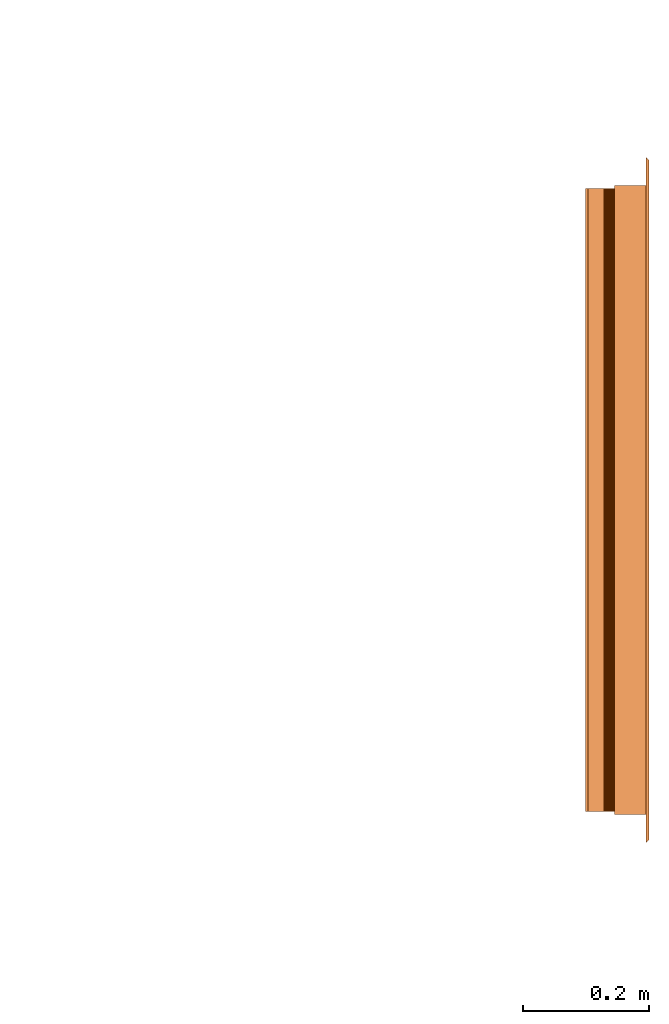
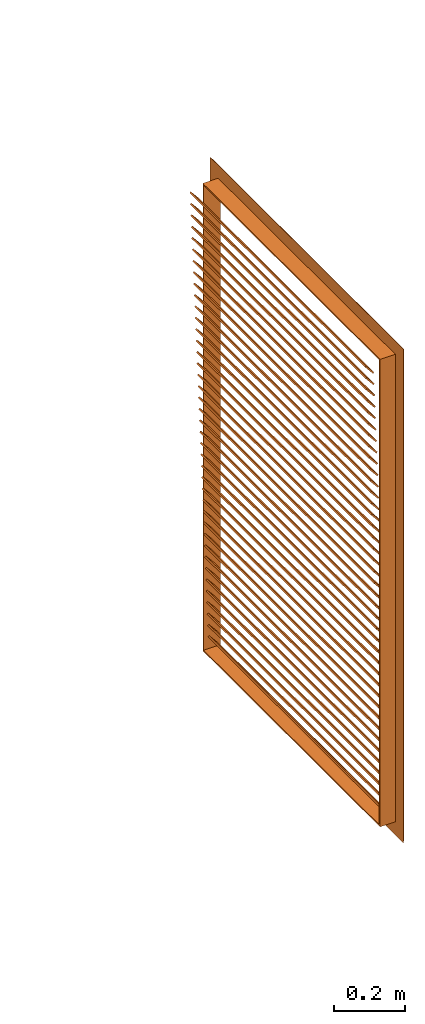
# One storey, part 2 of 5: 1 proxy.
"""IFC2X3 building model written with IfcOpenShell, lengths in centimetres."""

import ifcopenshell
import ifcopenshell.guid

model = None  # the IFC model being written
_history = None  # IfcOwnerHistory: only IFC2X3 demands one
_inside = {}  # id of a spatial element -> (the spatial element, [elements in it])
_under = {}  # id of a project, library or spatial element -> (it, [spatial elements below it])
_declared = {}  # id of a project -> (the project, [libraries it declares])
_typed = {}  # id of a type object -> (the type object, [elements of that type])
_made_of = {}  # id of a material, layer set ... -> (it, [elements and type objects made of it])


def new_model(schema):
    """Start an empty IFC model of exactly this schema.

    Asked for "IFC4X3", IfcOpenShell would pick the latest addendum, in which some entities
    have other attributes; the version numbers below select the first issue.
    IFC2X3 requires an IfcOwnerHistory on every rooted entity: one is made here for all.
    """
    global model, _history
    if schema == "IFC4X3":
        model = ifcopenshell.file(schema_version=(4, 3, 0, 0))
    else:
        model = ifcopenshell.file(schema=schema)
    _inside.clear()
    _under.clear()
    _declared.clear()
    _typed.clear()
    _made_of.clear()
    _history = None
    if model.schema == "IFC2X3":
        org = make("IfcOrganization", Name="unknown")
        user = make(
            "IfcPersonAndOrganization",
            ThePerson=make("IfcPerson", FamilyName="unknown"),
            TheOrganization=org,
        )
        app = make(
            "IfcApplication",
            ApplicationDeveloper=org,
            Version="unknown",
            ApplicationFullName="unknown",
            ApplicationIdentifier="unknown",
        )
        _history = make(
            "IfcOwnerHistory",
            OwningUser=user,
            OwningApplication=app,
            ChangeAction="ADDED",
            CreationDate=0,
        )
    return model


def make(cls, **values):
    """One entity of the class cls with the attributes given. An attribute that is None is left unset."""
    return model.create_entity(
        cls, **{name: value for name, value in values.items() if value is not None}
    )


def entity(cls, *values):
    """Any entity or typed value of the class cls, its attributes in the order of the schema. None: left unset."""
    e = model.create_entity(cls)
    for i, value in enumerate(values):
        if value is not None:
            e[i] = value
    return e


def rooted(cls, **values):
    """An entity with a GlobalId (a new one), such as an element, a storey or a relation."""
    return make(cls, GlobalId=ifcopenshell.guid.new(), OwnerHistory=_history, **values)


def si_unit(unit_type, name, prefix=None):
    """IfcSIUnit, for example si_unit("LENGTHUNIT", "METRE", prefix="MILLI")."""
    return make("IfcSIUnit", UnitType=unit_type, Prefix=prefix, Name=name)


def converted_unit(unit_type, name, factor, base, dimensions=None, offset=None):
    """IfcConversionBasedUnit, such as the inch: factor (a typed value) times the base unit."""
    return make(
        "IfcConversionBasedUnit"
        if offset is None
        else "IfcConversionBasedUnitWithOffset",
        ConversionOffset=offset,
        Dimensions=None
        if dimensions is None
        else entity("IfcDimensionalExponents", *dimensions),
        UnitType=unit_type,
        Name=name,
        ConversionFactor=make(
            "IfcMeasureWithUnit", ValueComponent=factor, UnitComponent=base
        ),
    )


def derived_unit(unit_type, elements):
    """IfcDerivedUnit: a product of units, each with its exponent."""
    return make(
        "IfcDerivedUnit",
        Elements=[
            make("IfcDerivedUnitElement", Unit=unit, Exponent=power)
            for unit, power in elements
        ],
        UnitType=unit_type,
    )


def assignment(units):
    """IfcUnitAssignment: the units of a project."""
    return None if units is None else make("IfcUnitAssignment", Units=units)


def point(xyz):
    """IfcCartesianPoint."""
    return None if xyz is None else make("IfcCartesianPoint", Coordinates=xyz)


def direction(xyz):
    """IfcDirection."""
    return None if xyz is None else make("IfcDirection", DirectionRatios=xyz)


def frame(location, z_axis=None, x_axis=None):
    """IfcAxis2Placement3D, a coordinate frame: its origin and axes. An axis left out is left unset."""
    return make(
        "IfcAxis2Placement3D",
        Location=point(location),
        Axis=direction(z_axis),
        RefDirection=direction(x_axis),
    )


def origin():
    """The frame at (0, 0, 0) with its axes left unset."""
    return frame((0.0, 0.0, 0.0))


def place(relative_to, where):
    """IfcLocalPlacement: puts the frame where relative to a parent placement (None: the world)."""
    return make(
        "IfcLocalPlacement", PlacementRelTo=relative_to, RelativePlacement=where
    )


def context(
    kind, dimensions, precision=None, world=None, true_north=None, identifier=None
):
    """IfcGeometricRepresentationContext, for example the 3D "Model" context."""
    return make(
        "IfcGeometricRepresentationContext",
        ContextIdentifier=identifier,
        ContextType=kind,
        CoordinateSpaceDimension=dimensions,
        Precision=precision,
        WorldCoordinateSystem=world,
        TrueNorth=true_north,
    )


def subcontext(parent, identifier, kind, view, scale=None):
    """IfcGeometricRepresentationSubContext, for example "Body" below "Model"."""
    return make(
        "IfcGeometricRepresentationSubContext",
        ContextIdentifier=identifier,
        ContextType=kind,
        ParentContext=parent,
        TargetScale=scale,
        TargetView=view,
    )


def project(units=None, contexts=None):
    """IfcProject with its units and contexts."""
    return rooted(
        "IfcProject",
        Name="project",
        RepresentationContexts=contexts,
        UnitsInContext=assignment(units),
    )


def spatial(cls, under=None, at=None, **own):
    """A site, building, storey or space (cls), placed at a placement, below another one or the project."""
    s = rooted(cls, ObjectPlacement=at, **own)
    if under is not None:
        _under.setdefault(under.id(), (under, []))[1].append(s)
    return s


def faces_of(points, faces, orient=None, outer=None):
    """IfcFace entities. A face is a list of loops; a loop is a list of indices into points, from 0.

    orient and outer hold one flag for each loop. By default every Orientation is true, the
    first loop of a face is its IfcFaceOuterBound and the others are IfcFaceBound.
    """
    made = []
    for i, loops in enumerate(faces):
        bounds = []
        for j, loop in enumerate(loops):
            is_outer = j == 0 if outer is None else outer[i][j]
            bounds.append(
                make(
                    "IfcFaceOuterBound" if is_outer else "IfcFaceBound",
                    Bound=make("IfcPolyLoop", Polygon=[points[k] for k in loop]),
                    Orientation=True if orient is None else orient[i][j],
                )
            )
        made.append(make("IfcFace", Bounds=bounds))
    return made


def faceted_brep(points, faces, orient=None, outer=None, voids=None):
    """IfcFacetedBrep: a solid bounded by flat faces; with voids (closed shells), ...WithVoids."""
    shared = [point(p) for p in points]
    hull = make("IfcClosedShell", CfsFaces=faces_of(shared, faces, orient, outer))
    if voids is None:
        return make("IfcFacetedBrep", Outer=hull)
    return make(
        "IfcFacetedBrepWithVoids",
        Outer=hull,
        Voids=[
            make(cls, CfsFaces=faces_of(shared, fs, o, b)) for cls, fs, o, b in voids
        ],
    )


def shape(context_of_items, identifier, shape_type, items):
    """IfcShapeRepresentation: the items that make up one representation, for example the "Body"."""
    return make(
        "IfcShapeRepresentation",
        ContextOfItems=context_of_items,
        RepresentationIdentifier=identifier,
        RepresentationType=shape_type,
        Items=items,
    )


def source(mapping_origin, context_of_items, identifier, shape_type, items):
    """IfcRepresentationMap: a shape defined once, which mapped items show again and again."""
    return make(
        "IfcRepresentationMap",
        MappingOrigin=mapping_origin,
        MappedRepresentation=shape(context_of_items, identifier, shape_type, items),
    )


def transform(
    local_origin,
    x_axis=None,
    y_axis=None,
    z_axis=None,
    scale=None,
    scale2=None,
    scale3=None,
    uniform=True,
):
    """IfcCartesianTransformationOperator3D, or its non-uniform kind. x_axis, y_axis, z_axis: its Axis1, 2, 3."""
    if uniform:
        return make(
            "IfcCartesianTransformationOperator3D",
            Axis1=direction(x_axis),
            Axis2=direction(y_axis),
            LocalOrigin=point(local_origin),
            Scale=scale,
            Axis3=direction(z_axis),
        )
    return make(
        "IfcCartesianTransformationOperator3DnonUniform",
        Axis1=direction(x_axis),
        Axis2=direction(y_axis),
        LocalOrigin=point(local_origin),
        Scale=scale,
        Axis3=direction(z_axis),
        Scale2=scale2,
        Scale3=scale3,
    )


def mapped(mapping_source, mapping_target):
    """IfcMappedItem: shows the shape of a source again, moved by a transform."""
    return make(
        "IfcMappedItem", MappingSource=mapping_source, MappingTarget=mapping_target
    )


def material(Name=None, Category=None):
    """IfcMaterial."""
    return make("IfcMaterial", Name=Name, Category=Category)


def made_of(thing, what):
    """Note that an element or type object is made of a material, layer set ...; save() writes the relation."""
    if what is not None:
        _made_of.setdefault(what.id(), (what, []))[1].append(thing)
    return thing


def type_object(cls, material=None, **own):
    """A type object (cls), such as IfcWallType, which elements share."""
    return made_of(rooted(cls, **own), material)


def type_shapes(of_type, sources):
    """Give a type object the sources (RepresentationMaps) that its elements show as mapped items."""
    of_type.RepresentationMaps = sources


def element(
    cls,
    number,
    at=None,
    inside=None,
    cuts=None,
    type_object=None,
    material=None,
    context=None,
    identifier="Body",
    shape_type=None,
    held_by="IfcProductDefinitionShape",
    body=None,
    shapes=None,
    **own,
):
    """One element of the class cls, such as IfcWall. Its Tag is "e" and its number.

    at: its placement. inside: the storey or other place that contains it. cuts: it is an
    opening in that element (IfcRelVoidsElement). A single representation is given by context,
    identifier, shape_type and body (its items); several are given by shapes. held_by: the class
    of the entity that holds the representations. save() writes the other relations.
    """
    e = rooted(cls, Tag="e%d" % number, ObjectPlacement=at, **own)
    if body is not None:
        shapes = [shape(context, identifier, shape_type, body)]
    if shapes is not None:
        e.Representation = make(held_by, Representations=shapes)
    if inside is not None:
        _inside.setdefault(inside.id(), (inside, []))[1].append(e)
    if cuts is not None:
        rooted(
            "IfcRelVoidsElement", RelatingBuildingElement=cuts, RelatedOpeningElement=e
        )
    if type_object is not None:
        _typed.setdefault(type_object.id(), (type_object, []))[1].append(e)
    return made_of(e, material)


def aggregate(whole, parts):
    """IfcRelAggregates: a whole, such as a stair, and the parts it consists of."""
    return rooted("IfcRelAggregates", RelatingObject=whole, RelatedObjects=parts)


def save(model, path):
    """Write the relations noted so far, then the file.

    IfcRelAggregates (storeys below a building ...), IfcRelContainedInSpatialStructure (elements
    in a storey), IfcRelDefinesByType, IfcRelAssociatesMaterial and IfcRelDeclares: one each for
    every whole, place, type object, material and project.
    """
    for whole, parts in _under.values():
        aggregate(whole, parts)
    for where, things in _inside.values():
        rooted(
            "IfcRelContainedInSpatialStructure",
            RelatedElements=things,
            RelatingStructure=where,
        )
    for kind, things in _typed.values():
        rooted("IfcRelDefinesByType", RelatedObjects=things, RelatingType=kind)
    for what, things in _made_of.values():
        rooted("IfcRelAssociatesMaterial", RelatedObjects=things, RelatingMaterial=what)
    for by, libraries in _declared.values():
        rooted("IfcRelDeclares", RelatingContext=by, RelatedDefinitions=libraries)
    model.write(path)


model = new_model("IFC2X3")

# Units and contexts
model_context = context("Model", 3, precision=0.001, world=origin(), true_north=direction((6.12303176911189e-17, 1.0)))
body_context = subcontext(model_context, "Body", "Model", "MODEL_VIEW")
ifc_project = project(units=[si_unit("LENGTHUNIT", "METRE", prefix="CENTI"), si_unit("AREAUNIT", "SQUARE_METRE"), si_unit("VOLUMEUNIT", "CUBIC_METRE"), converted_unit("PLANEANGLEUNIT", "DEGREE", entity("IfcRatioMeasure", 0.0174532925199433), si_unit("PLANEANGLEUNIT", "RADIAN"), dimensions=[0, 0, 0, 0, 0, 0, 0]), si_unit("MASSUNIT", "GRAM", prefix="KILO"), si_unit("TIMEUNIT", "SECOND"), si_unit("FREQUENCYUNIT", "HERTZ"), si_unit("THERMODYNAMICTEMPERATUREUNIT", "DEGREE_CELSIUS"), derived_unit("THERMALTRANSMITTANCEUNIT", [(si_unit("MASSUNIT", "GRAM", prefix="KILO"), 1), (si_unit("THERMODYNAMICTEMPERATUREUNIT", "KELVIN"), -1), (si_unit("TIMEUNIT", "SECOND"), -3)]), derived_unit("VOLUMETRICFLOWRATEUNIT", [(si_unit("LENGTHUNIT", "METRE"), 3), (si_unit("TIMEUNIT", "SECOND"), -1)]), si_unit("ELECTRICCURRENTUNIT", "AMPERE"), si_unit("ELECTRICVOLTAGEUNIT", "VOLT"), si_unit("POWERUNIT", "WATT"), si_unit("FORCEUNIT", "NEWTON", prefix="KILO"), si_unit("ILLUMINANCEUNIT", "LUX"), si_unit("LUMINOUSFLUXUNIT", "LUMEN"), si_unit("LUMINOUSINTENSITYUNIT", "CANDELA"), derived_unit("USERDEFINED", [(si_unit("MASSUNIT", "GRAM", prefix="KILO"), -1), (si_unit("LENGTHUNIT", "METRE"), -2), (si_unit("TIMEUNIT", "SECOND"), 3), (si_unit("LUMINOUSFLUXUNIT", "LUMEN"), 1)]), derived_unit("LINEARVELOCITYUNIT", [(si_unit("LENGTHUNIT", "METRE"), 1), (si_unit("TIMEUNIT", "SECOND"), -1)]), si_unit("PRESSUREUNIT", "PASCAL"), derived_unit("USERDEFINED", [(si_unit("LENGTHUNIT", "METRE"), -2), (si_unit("MASSUNIT", "GRAM", prefix="KILO"), 1), (si_unit("TIMEUNIT", "SECOND"), -2)])], contexts=[model_context])

# Site, building, storey
site_placement = place(None, frame((8.62739174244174, -249.285249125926, 0.0)))
site = spatial("IfcSite", under=ifc_project, at=site_placement, Name="Default", CompositionType="ELEMENT")
building_placement = place(site_placement, origin())
building = spatial("IfcBuilding", under=site, at=building_placement, CompositionType="ELEMENT")
storey_placement = place(building_placement, frame((0.0, 0.0, 410.0)))
storey = spatial("IfcBuildingStorey", under=building, at=storey_placement, Name="Acrotère E1", CompositionType="ELEMENT", Elevation=410.000000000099)

# Proxy
ifc_material = material(Name="Acier - Galvanisé")
building_element_proxy_type = type_object("IfcBuildingElementProxyType", Name="1000 x 800 mm", PredefinedType="NOTDEFINED", material=ifc_material)
shared_shape = source(origin(), body_context, "Body", "Brep", [
    faceted_brep([(104.011775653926, 5.84615384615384, 13.0503124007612), (104.011775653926, 8.4173042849, 9.98613462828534), (104.011775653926, 8.80032650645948, 10.3075284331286), (104.011775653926, 6.22917606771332, 13.3717062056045), (5.01177565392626, 5.84615384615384, 13.0503124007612), (5.01177565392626, 6.22917606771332, 13.3717062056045), (5.01177565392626, 8.80032650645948, 10.3075284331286), (5.01177565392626, 8.4173042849, 9.98613462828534)], [[[0, 1, 2, 3]], [[4, 5, 6, 7]], [[1, 0, 4, 7]], [[2, 1, 7, 6]], [[3, 2, 6, 5]], [[0, 3, 5, 4]]]),
    faceted_brep([(104.011775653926, 5.69230769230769, 17.0246713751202), (104.011775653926, 8.26345813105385, 13.9604936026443), (104.011775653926, 8.64648035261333, 14.2818874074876), (104.011775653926, 6.07532991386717, 17.3460651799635), (5.01177565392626, 5.69230769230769, 17.0246713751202), (5.01177565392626, 6.07532991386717, 17.3460651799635), (5.01177565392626, 8.64648035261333, 14.2818874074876), (5.01177565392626, 8.26345813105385, 13.9604936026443)], [[[0, 1, 2, 3]], [[4, 5, 6, 7]], [[1, 0, 4, 7]], [[2, 1, 7, 6]], [[3, 2, 6, 5]], [[0, 3, 5, 4]]]),
    faceted_brep([(104.011775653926, 5.53846153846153, 20.9990303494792), (104.011775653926, 8.10961197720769, 17.9348525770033), (104.011775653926, 8.49263419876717, 18.2562463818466), (104.011775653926, 5.92148376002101, 21.3204241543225), (5.01177565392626, 5.53846153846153, 20.9990303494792), (5.01177565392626, 5.92148376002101, 21.3204241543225), (5.01177565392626, 8.49263419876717, 18.2562463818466), (5.01177565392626, 8.10961197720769, 17.9348525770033)], [[[0, 1, 2, 3]], [[4, 5, 6, 7]], [[1, 0, 4, 7]], [[2, 1, 7, 6]], [[3, 2, 6, 5]], [[0, 3, 5, 4]]]),
    faceted_brep([(104.011775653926, 5.38461538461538, 24.9733893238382), (104.011775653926, 7.95576582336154, 21.9092115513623), (104.011775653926, 8.33878804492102, 22.2306053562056), (104.011775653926, 5.76763760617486, 25.2947831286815), (5.01177565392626, 5.38461538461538, 24.9733893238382), (5.01177565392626, 5.76763760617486, 25.2947831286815), (5.01177565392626, 8.33878804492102, 22.2306053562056), (5.01177565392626, 7.95576582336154, 21.9092115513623)], [[[0, 1, 2, 3]], [[4, 5, 6, 7]], [[1, 0, 4, 7]], [[2, 1, 7, 6]], [[3, 2, 6, 5]], [[0, 3, 5, 4]]]),
    faceted_brep([(104.011775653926, 5.23076923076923, 28.9477482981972), (104.011775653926, 7.80191966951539, 25.8835705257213), (104.011775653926, 8.18494189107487, 26.2049643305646), (104.011775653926, 5.61379145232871, 29.2691421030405), (5.01177565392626, 5.23076923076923, 28.9477482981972), (5.01177565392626, 5.61379145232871, 29.2691421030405), (5.01177565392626, 8.18494189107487, 26.2049643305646), (5.01177565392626, 7.80191966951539, 25.8835705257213)], [[[0, 1, 2, 3]], [[4, 5, 6, 7]], [[1, 0, 4, 7]], [[2, 1, 7, 6]], [[3, 2, 6, 5]], [[0, 3, 5, 4]]]),
    faceted_brep([(104.011775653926, 5.07692307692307, 32.9221072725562), (104.011775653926, 7.64807351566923, 29.8579295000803), (104.011775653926, 8.03109573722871, 30.1793233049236), (104.011775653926, 5.45994529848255, 33.2435010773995), (5.01177565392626, 5.07692307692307, 32.9221072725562), (5.01177565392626, 5.45994529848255, 33.2435010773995), (5.01177565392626, 8.03109573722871, 30.1793233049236), (5.01177565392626, 7.64807351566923, 29.8579295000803)], [[[0, 1, 2, 3]], [[4, 5, 6, 7]], [[1, 0, 4, 7]], [[2, 1, 7, 6]], [[3, 2, 6, 5]], [[0, 3, 5, 4]]]),
    faceted_brep([(104.011775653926, 4.92307692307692, 36.8964662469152), (104.011775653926, 7.49422736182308, 33.8322884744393), (104.011775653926, 7.87724958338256, 34.1536822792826), (104.011775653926, 5.3060991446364, 37.2178600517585), (5.01177565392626, 4.92307692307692, 36.8964662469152), (5.01177565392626, 5.3060991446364, 37.2178600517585), (5.01177565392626, 7.87724958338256, 34.1536822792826), (5.01177565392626, 7.49422736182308, 33.8322884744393)], [[[0, 1, 2, 3]], [[4, 5, 6, 7]], [[1, 0, 4, 7]], [[2, 1, 7, 6]], [[3, 2, 6, 5]], [[0, 3, 5, 4]]]),
    faceted_brep([(104.011775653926, 4.76923076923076, 40.8708252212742), (104.011775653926, 7.34038120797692, 37.8066474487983), (104.011775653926, 7.7234034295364, 38.1280412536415), (104.011775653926, 5.15225299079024, 41.1922190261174), (5.01177565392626, 4.76923076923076, 40.8708252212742), (5.01177565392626, 5.15225299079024, 41.1922190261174), (5.01177565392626, 7.7234034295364, 38.1280412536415), (5.01177565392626, 7.34038120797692, 37.8066474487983)], [[[0, 1, 2, 3]], [[4, 5, 6, 7]], [[1, 0, 4, 7]], [[2, 1, 7, 6]], [[3, 2, 6, 5]], [[0, 3, 5, 4]]]),
    faceted_brep([(104.011775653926, 4.61538461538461, 44.8451841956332), (104.011775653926, 7.18653505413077, 41.7810064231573), (104.011775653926, 7.56955727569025, 42.1024002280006), (104.011775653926, 4.99840683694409, 45.1665780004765), (5.01177565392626, 4.61538461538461, 44.8451841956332), (5.01177565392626, 4.99840683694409, 45.1665780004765), (5.01177565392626, 7.56955727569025, 42.1024002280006), (5.01177565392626, 7.18653505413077, 41.7810064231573)], [[[0, 1, 2, 3]], [[4, 5, 6, 7]], [[1, 0, 4, 7]], [[2, 1, 7, 6]], [[3, 2, 6, 5]], [[0, 3, 5, 4]]]),
    faceted_brep([(104.011775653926, 4.46153846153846, 48.8195431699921), (104.011775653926, 7.03268890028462, 45.7553653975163), (104.011775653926, 7.4157111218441, 46.0767592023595), (104.011775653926, 4.84456068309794, 49.1409369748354), (5.01177565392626, 4.46153846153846, 48.8195431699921), (5.01177565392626, 4.84456068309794, 49.1409369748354), (5.01177565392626, 7.4157111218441, 46.0767592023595), (5.01177565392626, 7.03268890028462, 45.7553653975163)], [[[0, 1, 2, 3]], [[4, 5, 6, 7]], [[1, 0, 4, 7]], [[2, 1, 7, 6]], [[3, 2, 6, 5]], [[0, 3, 5, 4]]]),
    faceted_brep([(104.011775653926, 4.3076923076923, 52.7939021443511), (104.011775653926, 6.87884274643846, 49.7297243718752), (104.011775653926, 7.26186496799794, 50.0511181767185), (104.011775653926, 4.69071452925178, 53.1152959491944), (5.01177565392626, 4.3076923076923, 52.7939021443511), (5.01177565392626, 4.69071452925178, 53.1152959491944), (5.01177565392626, 7.26186496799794, 50.0511181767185), (5.01177565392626, 6.87884274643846, 49.7297243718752)], [[[0, 1, 2, 3]], [[4, 5, 6, 7]], [[1, 0, 4, 7]], [[2, 1, 7, 6]], [[3, 2, 6, 5]], [[0, 3, 5, 4]]]),
    faceted_brep([(104.011775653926, 4.15384615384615, 56.7682611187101), (104.011775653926, 6.72499659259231, 53.7040833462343), (104.011775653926, 7.10801881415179, 54.0254771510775), (104.011775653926, 4.53686837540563, 57.0896549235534), (5.01177565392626, 4.15384615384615, 56.7682611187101), (5.01177565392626, 4.53686837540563, 57.0896549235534), (5.01177565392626, 7.10801881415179, 54.0254771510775), (5.01177565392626, 6.72499659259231, 53.7040833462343)], [[[0, 1, 2, 3]], [[4, 5, 6, 7]], [[1, 0, 4, 7]], [[2, 1, 7, 6]], [[3, 2, 6, 5]], [[0, 3, 5, 4]]]),
    faceted_brep([(104.011775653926, 4.0, 60.7426200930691), (104.011775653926, 6.57115043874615, 57.6784423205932), (104.011775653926, 6.95417266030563, 57.9998361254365), (104.011775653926, 4.38302222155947, 61.0640138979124), (5.01177565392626, 4.0, 60.7426200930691), (5.01177565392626, 4.38302222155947, 61.0640138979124), (5.01177565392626, 6.95417266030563, 57.9998361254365), (5.01177565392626, 6.57115043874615, 57.6784423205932)], [[[0, 1, 2, 3]], [[4, 5, 6, 7]], [[1, 0, 4, 7]], [[2, 1, 7, 6]], [[3, 2, 6, 5]], [[0, 3, 5, 4]]]),
    faceted_brep([(104.011775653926, 3.84615384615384, 64.716979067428), (104.011775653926, 6.4173042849, 61.6528012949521), (104.011775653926, 6.80032650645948, 61.9741950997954), (104.011775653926, 4.22917606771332, 65.0383728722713), (5.01177565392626, 3.84615384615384, 64.716979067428), (5.01177565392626, 4.22917606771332, 65.0383728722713), (5.01177565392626, 6.80032650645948, 61.9741950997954), (5.01177565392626, 6.4173042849, 61.6528012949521)], [[[0, 1, 2, 3]], [[4, 5, 6, 7]], [[1, 0, 4, 7]], [[2, 1, 7, 6]], [[3, 2, 6, 5]], [[0, 3, 5, 4]]]),
    faceted_brep([(104.011775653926, 3.69230769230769, 68.6913380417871), (104.011775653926, 6.26345813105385, 65.6271602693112), (104.011775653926, 6.64648035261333, 65.9485540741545), (104.011775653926, 4.07532991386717, 69.0127318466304), (5.01177565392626, 3.69230769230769, 68.6913380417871), (5.01177565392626, 4.07532991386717, 69.0127318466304), (5.01177565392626, 6.64648035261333, 65.9485540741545), (5.01177565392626, 6.26345813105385, 65.6271602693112)], [[[0, 1, 2, 3]], [[4, 5, 6, 7]], [[1, 0, 4, 7]], [[2, 1, 7, 6]], [[3, 2, 6, 5]], [[0, 3, 5, 4]]]),
    faceted_brep([(104.011775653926, 3.53846153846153, 72.665697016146), (104.011775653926, 6.10961197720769, 69.6015192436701), (104.011775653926, 6.49263419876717, 69.9229130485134), (104.011775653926, 3.92148376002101, 72.9870908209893), (5.01177565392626, 3.53846153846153, 72.665697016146), (5.01177565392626, 3.92148376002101, 72.9870908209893), (5.01177565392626, 6.49263419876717, 69.9229130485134), (5.01177565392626, 6.10961197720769, 69.6015192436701)], [[[0, 1, 2, 3]], [[4, 5, 6, 7]], [[1, 0, 4, 7]], [[2, 1, 7, 6]], [[3, 2, 6, 5]], [[0, 3, 5, 4]]]),
    faceted_brep([(104.011775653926, 3.38461538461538, 76.6400559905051), (104.011775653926, 5.95576582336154, 73.5758782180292), (104.011775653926, 6.33878804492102, 73.8972720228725), (104.011775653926, 3.76763760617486, 76.9614497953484), (5.01177565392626, 3.38461538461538, 76.6400559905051), (5.01177565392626, 3.76763760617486, 76.9614497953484), (5.01177565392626, 6.33878804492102, 73.8972720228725), (5.01177565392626, 5.95576582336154, 73.5758782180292)], [[[0, 1, 2, 3]], [[4, 5, 6, 7]], [[1, 0, 4, 7]], [[2, 1, 7, 6]], [[3, 2, 6, 5]], [[0, 3, 5, 4]]]),
    faceted_brep([(104.011775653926, 3.23076923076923, 80.614414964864), (104.011775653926, 5.80191966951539, 77.5502371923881), (104.011775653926, 6.18494189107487, 77.8716309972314), (104.011775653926, 3.61379145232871, 80.9358087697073), (5.01177565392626, 3.23076923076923, 80.614414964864), (5.01177565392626, 3.61379145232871, 80.9358087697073), (5.01177565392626, 6.18494189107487, 77.8716309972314), (5.01177565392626, 5.80191966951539, 77.5502371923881)], [[[0, 1, 2, 3]], [[4, 5, 6, 7]], [[1, 0, 4, 7]], [[2, 1, 7, 6]], [[3, 2, 6, 5]], [[0, 3, 5, 4]]]),
    faceted_brep([(104.011775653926, 3.07692307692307, 84.588773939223), (104.011775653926, 5.64807351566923, 81.5245961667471), (104.011775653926, 6.03109573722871, 81.8459899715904), (104.011775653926, 3.45994529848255, 84.9101677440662), (5.01177565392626, 3.07692307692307, 84.588773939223), (5.01177565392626, 3.45994529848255, 84.9101677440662), (5.01177565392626, 6.03109573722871, 81.8459899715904), (5.01177565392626, 5.64807351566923, 81.5245961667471)], [[[0, 1, 2, 3]], [[4, 5, 6, 7]], [[1, 0, 4, 7]], [[2, 1, 7, 6]], [[3, 2, 6, 5]], [[0, 3, 5, 4]]]),
    faceted_brep([(104.011775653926, 2.92307692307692, 88.563132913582), (104.011775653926, 5.49422736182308, 85.4989551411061), (104.011775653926, 5.87724958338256, 85.8203489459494), (104.011775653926, 3.3060991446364, 88.8845267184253), (5.01177565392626, 2.92307692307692, 88.563132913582), (5.01177565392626, 3.3060991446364, 88.8845267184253), (5.01177565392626, 5.87724958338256, 85.8203489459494), (5.01177565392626, 5.49422736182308, 85.4989551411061)], [[[0, 1, 2, 3]], [[4, 5, 6, 7]], [[1, 0, 4, 7]], [[2, 1, 7, 6]], [[3, 2, 6, 5]], [[0, 3, 5, 4]]]),
    faceted_brep([(104.011775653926, 2.76923076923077, 92.537491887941), (104.011775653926, 5.34038120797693, 89.4733141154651), (104.011775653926, 5.72340342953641, 89.7947079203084), (104.011775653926, 3.15225299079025, 92.8588856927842), (5.01177565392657, 2.76923076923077, 92.537491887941), (5.01177565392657, 3.15225299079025, 92.8588856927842), (5.01177565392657, 5.72340342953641, 89.7947079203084), (5.01177565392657, 5.34038120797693, 89.4733141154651)], [[[0, 1, 2, 3]], [[4, 5, 6, 7]], [[1, 0, 4, 7]], [[2, 1, 7, 6]], [[3, 2, 6, 5]], [[0, 3, 5, 4]]]),
    faceted_brep([(104.011775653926, 2.61538461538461, 96.5118508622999), (104.011775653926, 5.18653505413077, 93.447673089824), (104.011775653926, 5.56955727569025, 93.7690668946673), (104.011775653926, 2.99840683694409, 96.8332446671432), (5.01177565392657, 2.61538461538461, 96.5118508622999), (5.01177565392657, 2.99840683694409, 96.8332446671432), (5.01177565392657, 5.56955727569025, 93.7690668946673), (5.01177565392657, 5.18653505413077, 93.447673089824)], [[[0, 1, 2, 3]], [[4, 5, 6, 7]], [[1, 0, 4, 7]], [[2, 1, 7, 6]], [[3, 2, 6, 5]], [[0, 3, 5, 4]]]),
    faceted_brep([(104.011775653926, 2.46153846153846, 100.486209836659), (104.011775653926, 5.03268890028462, 97.4220320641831), (104.011775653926, 5.4157111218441, 97.7434258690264), (104.011775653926, 2.84456068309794, 100.807603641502), (5.01177565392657, 2.46153846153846, 100.486209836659), (5.01177565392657, 2.84456068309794, 100.807603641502), (5.01177565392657, 5.4157111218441, 97.7434258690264), (5.01177565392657, 5.03268890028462, 97.4220320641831)], [[[0, 1, 2, 3]], [[4, 5, 6, 7]], [[1, 0, 4, 7]], [[2, 1, 7, 6]], [[3, 2, 6, 5]], [[0, 3, 5, 4]]]),
    faceted_brep([(104.011775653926, 2.3076923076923, 104.460568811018), (104.011775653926, 4.87884274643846, 101.396391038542), (104.011775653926, 5.26186496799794, 101.717784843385), (104.011775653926, 2.69071452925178, 104.781962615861), (5.01177565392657, 2.3076923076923, 104.460568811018), (5.01177565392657, 2.69071452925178, 104.781962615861), (5.01177565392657, 5.26186496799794, 101.717784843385), (5.01177565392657, 4.87884274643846, 101.396391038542)], [[[0, 1, 2, 3]], [[4, 5, 6, 7]], [[1, 0, 4, 7]], [[2, 1, 7, 6]], [[3, 2, 6, 5]], [[0, 3, 5, 4]]]),
    faceted_brep([(104.011775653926, 2.15384615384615, 108.434927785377), (104.011775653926, 4.72499659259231, 105.370750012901), (104.011775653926, 5.10801881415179, 105.692143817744), (104.011775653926, 2.53686837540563, 108.75632159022), (5.01177565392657, 2.15384615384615, 108.434927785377), (5.01177565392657, 2.53686837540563, 108.75632159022), (5.01177565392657, 5.10801881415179, 105.692143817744), (5.01177565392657, 4.72499659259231, 105.370750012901)], [[[0, 1, 2, 3]], [[4, 5, 6, 7]], [[1, 0, 4, 7]], [[2, 1, 7, 6]], [[3, 2, 6, 5]], [[0, 3, 5, 4]]]),
    faceted_brep([(104.011775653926, 2.0, 112.409286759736), (104.011775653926, 4.57115043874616, 109.34510898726), (104.011775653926, 4.95417266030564, 109.666502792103), (104.011775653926, 2.38302222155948, 112.730680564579), (5.01177565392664, 2.0, 112.409286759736), (5.01177565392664, 2.38302222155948, 112.730680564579), (5.01177565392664, 4.95417266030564, 109.666502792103), (5.01177565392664, 4.57115043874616, 109.34510898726)], [[[0, 1, 2, 3]], [[4, 5, 6, 7]], [[1, 0, 4, 7]], [[2, 1, 7, 6]], [[3, 2, 6, 5]], [[0, 3, 5, 4]]]),
    faceted_brep([(104.011775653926, 1.84615384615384, 116.383645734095), (104.011775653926, 4.4173042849, 113.319467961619), (104.011775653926, 4.80032650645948, 113.640861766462), (104.011775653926, 2.22917606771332, 116.705039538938), (5.01177565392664, 1.84615384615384, 116.383645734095), (5.01177565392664, 2.22917606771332, 116.705039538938), (5.01177565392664, 4.80032650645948, 113.640861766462), (5.01177565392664, 4.4173042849, 113.319467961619)], [[[0, 1, 2, 3]], [[4, 5, 6, 7]], [[1, 0, 4, 7]], [[2, 1, 7, 6]], [[3, 2, 6, 5]], [[0, 3, 5, 4]]]),
    faceted_brep([(104.011775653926, 1.69230769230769, 120.358004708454), (104.011775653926, 4.26345813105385, 117.293826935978), (104.011775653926, 4.64648035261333, 117.615220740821), (104.011775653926, 2.07532991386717, 120.679398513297), (5.01177565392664, 1.69230769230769, 120.358004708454), (5.01177565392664, 2.07532991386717, 120.679398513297), (5.01177565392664, 4.64648035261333, 117.615220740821), (5.01177565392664, 4.26345813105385, 117.293826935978)], [[[0, 1, 2, 3]], [[4, 5, 6, 7]], [[1, 0, 4, 7]], [[2, 1, 7, 6]], [[3, 2, 6, 5]], [[0, 3, 5, 4]]]),
    faceted_brep([(104.011775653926, 1.53846153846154, 124.332363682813), (104.011775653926, 4.1096119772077, 121.268185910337), (104.011775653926, 4.49263419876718, 121.58957971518), (104.011775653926, 1.92148376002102, 124.653757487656), (5.01177565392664, 1.53846153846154, 124.332363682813), (5.01177565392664, 1.92148376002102, 124.653757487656), (5.01177565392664, 4.49263419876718, 121.58957971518), (5.01177565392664, 4.1096119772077, 121.268185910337)], [[[0, 1, 2, 3]], [[4, 5, 6, 7]], [[1, 0, 4, 7]], [[2, 1, 7, 6]], [[3, 2, 6, 5]], [[0, 3, 5, 4]]]),
    faceted_brep([(104.011775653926, 1.38461538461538, 128.306722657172), (104.011775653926, 3.95576582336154, 125.242544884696), (104.011775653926, 4.33878804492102, 125.563938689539), (104.011775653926, 1.76763760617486, 128.628116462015), (5.01177565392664, 1.38461538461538, 128.306722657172), (5.01177565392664, 1.76763760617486, 128.628116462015), (5.01177565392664, 4.33878804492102, 125.563938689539), (5.01177565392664, 3.95576582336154, 125.242544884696)], [[[0, 1, 2, 3]], [[4, 5, 6, 7]], [[1, 0, 4, 7]], [[2, 1, 7, 6]], [[3, 2, 6, 5]], [[0, 3, 5, 4]]]),
    faceted_brep([(104.011775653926, 1.23076923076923, 132.281081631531), (104.011775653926, 3.80191966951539, 129.216903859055), (104.011775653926, 4.18494189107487, 129.538297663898), (104.011775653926, 1.61379145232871, 132.602475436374), (5.01177565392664, 1.23076923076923, 132.281081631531), (5.01177565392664, 1.61379145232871, 132.602475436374), (5.01177565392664, 4.18494189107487, 129.538297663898), (5.01177565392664, 3.80191966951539, 129.216903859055)], [[[0, 1, 2, 3]], [[4, 5, 6, 7]], [[1, 0, 4, 7]], [[2, 1, 7, 6]], [[3, 2, 6, 5]], [[0, 3, 5, 4]]]),
    faceted_brep([(104.011775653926, 1.07692307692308, 136.25544060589), (104.011775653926, 3.64807351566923, 133.191262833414), (104.011775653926, 4.03109573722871, 133.512656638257), (104.011775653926, 1.45994529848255, 136.576834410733), (5.01177565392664, 1.07692307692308, 136.25544060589), (5.01177565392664, 1.45994529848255, 136.576834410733), (5.01177565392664, 4.03109573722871, 133.512656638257), (5.01177565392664, 3.64807351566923, 133.191262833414)], [[[0, 1, 2, 3]], [[4, 5, 6, 7]], [[1, 0, 4, 7]], [[2, 1, 7, 6]], [[3, 2, 6, 5]], [[0, 3, 5, 4]]]),
    faceted_brep([(104.011775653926, 0.923076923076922, 140.229799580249), (104.011775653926, 3.49422736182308, 137.165621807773), (104.011775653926, 3.87724958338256, 137.487015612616), (104.011775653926, 1.3060991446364, 140.551193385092), (5.01177565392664, 0.923076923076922, 140.229799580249), (5.01177565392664, 1.3060991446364, 140.551193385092), (5.01177565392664, 3.87724958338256, 137.487015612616), (5.01177565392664, 3.49422736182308, 137.165621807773)], [[[0, 1, 2, 3]], [[4, 5, 6, 7]], [[1, 0, 4, 7]], [[2, 1, 7, 6]], [[3, 2, 6, 5]], [[0, 3, 5, 4]]]),
    faceted_brep([(104.011775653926, 0.769230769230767, 144.204158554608), (104.011775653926, 3.34038120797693, 141.139980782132), (104.011775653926, 3.72340342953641, 141.461374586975), (104.011775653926, 1.15225299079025, 144.525552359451), (5.01177565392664, 0.769230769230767, 144.204158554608), (5.01177565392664, 1.15225299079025, 144.525552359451), (5.01177565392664, 3.72340342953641, 141.461374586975), (5.01177565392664, 3.34038120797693, 141.139980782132)], [[[0, 1, 2, 3]], [[4, 5, 6, 7]], [[1, 0, 4, 7]], [[2, 1, 7, 6]], [[3, 2, 6, 5]], [[0, 3, 5, 4]]]),
    faceted_brep([(104.011775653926, 0.615384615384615, 148.178517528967), (104.011775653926, 3.18653505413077, 145.114339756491), (104.011775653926, 3.56955727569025, 145.435733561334), (104.011775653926, 0.998406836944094, 148.49991133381), (5.01177565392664, 0.615384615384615, 148.178517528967), (5.01177565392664, 0.998406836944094, 148.49991133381), (5.01177565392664, 3.56955727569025, 145.435733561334), (5.01177565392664, 3.18653505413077, 145.114339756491)], [[[0, 1, 2, 3]], [[4, 5, 6, 7]], [[1, 0, 4, 7]], [[2, 1, 7, 6]], [[3, 2, 6, 5]], [[0, 3, 5, 4]]]),
    faceted_brep([(104.011775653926, 0.461538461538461, 152.152876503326), (104.011775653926, 3.03268890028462, 149.08869873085), (104.011775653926, 3.4157111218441, 149.410092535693), (104.011775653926, 0.84456068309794, 152.474270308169), (5.01177565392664, 0.461538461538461, 152.152876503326), (5.01177565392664, 0.84456068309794, 152.474270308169), (5.01177565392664, 3.4157111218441, 149.410092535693), (5.01177565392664, 3.03268890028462, 149.08869873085)], [[[0, 1, 2, 3]], [[4, 5, 6, 7]], [[1, 0, 4, 7]], [[2, 1, 7, 6]], [[3, 2, 6, 5]], [[0, 3, 5, 4]]]),
    faceted_brep([(104.011775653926, 0.307692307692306, 156.127235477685), (104.011775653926, 2.87884274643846, 153.063057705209), (104.011775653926, 3.26186496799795, 153.384451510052), (104.011775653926, 0.690714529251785, 156.448629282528), (5.01177565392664, 0.307692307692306, 156.127235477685), (5.01177565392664, 0.690714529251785, 156.448629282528), (5.01177565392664, 3.26186496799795, 153.384451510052), (5.01177565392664, 2.87884274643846, 153.063057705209)], [[[0, 1, 2, 3]], [[4, 5, 6, 7]], [[1, 0, 4, 7]], [[2, 1, 7, 6]], [[3, 2, 6, 5]], [[0, 3, 5, 4]]]),
    faceted_brep([(104.011775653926, 0.153846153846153, 160.101594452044), (104.011775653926, 2.72499659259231, 157.037416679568), (104.011775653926, 3.10801881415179, 157.358810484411), (104.011775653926, 0.536868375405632, 160.422988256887), (5.01177565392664, 0.153846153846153, 160.101594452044), (5.01177565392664, 0.536868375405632, 160.422988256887), (5.01177565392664, 3.10801881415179, 157.358810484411), (5.01177565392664, 2.72499659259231, 157.037416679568)], [[[0, 1, 2, 3]], [[4, 5, 6, 7]], [[1, 0, 4, 7]], [[2, 1, 7, 6]], [[3, 2, 6, 5]], [[0, 3, 5, 4]]]),
    faceted_brep([(104.011775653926, 6.0, 9.07595342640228), (104.011775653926, 8.57115043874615, 6.01177565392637), (104.011775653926, 8.95417266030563, 6.33316945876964), (104.011775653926, 6.38302222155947, 9.39734723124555), (5.01177565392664, 6.0, 9.07595342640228), (5.01177565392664, 6.38302222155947, 9.39734723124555), (5.01177565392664, 8.95417266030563, 6.33316945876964), (5.01177565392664, 8.57115043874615, 6.01177565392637)], [[[0, 1, 2, 3]], [[4, 5, 6, 7]], [[1, 0, 4, 7]], [[2, 1, 7, 6]], [[3, 2, 6, 5]], [[0, 3, 5, 4]]]),
    faceted_brep([(104.011775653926, 0.0, 164.075953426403), (104.011775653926, 2.57115043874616, 161.011775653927), (104.011775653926, 2.95417266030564, 161.33316945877), (104.011775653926, 0.383022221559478, 164.397347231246), (5.01177565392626, 0.0, 164.075953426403), (5.01177565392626, 0.383022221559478, 164.397347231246), (5.01177565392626, 2.95417266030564, 161.33316945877), (5.01177565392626, 2.57115043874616, 161.011775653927)], [[[0, 1, 2, 3]], [[4, 5, 6, 7]], [[1, 0, 4, 7]], [[2, 1, 7, 6]], [[3, 2, 6, 5]], [[0, 3, 5, 4]]]),
    faceted_brep([(4.51177565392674, 4.57115043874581, 165.511775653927), (4.51177565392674, 9.57115043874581, 165.511775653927), (4.51177565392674, 9.57115043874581, 4.51177565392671), (4.51177565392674, 4.57115043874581, 4.51177565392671), (5.01177565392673, 10.0711504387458, 165.011775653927), (5.01177565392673, 4.57115043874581, 165.011775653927), (5.01177565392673, 4.57115043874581, 5.0117756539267), (5.01177565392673, 10.0711504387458, 5.0117756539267), (0.0, 9.57115043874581, 170.023551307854), (0.499999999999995, 10.0711504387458, 169.523551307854), (0.499999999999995, 10.0711504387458, 0.499999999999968), (0.0, 9.57115043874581, 0.0), (104.511775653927, 9.57115043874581, 4.51177565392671), (104.511775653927, 4.57115043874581, 4.51177565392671), (104.011775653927, 4.57115043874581, 5.0117756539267), (104.011775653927, 10.0711504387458, 5.0117756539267), (108.523551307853, 10.0711504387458, 0.499999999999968), (109.023551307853, 9.57115043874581, 0.0), (104.511775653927, 9.57115043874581, 165.511775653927), (104.511775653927, 4.57115043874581, 165.511775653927), (104.011775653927, 4.57115043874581, 165.011775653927), (104.011775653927, 10.0711504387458, 165.011775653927), (108.523551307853, 10.0711504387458, 169.523551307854), (109.023551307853, 9.57115043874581, 170.023551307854)], [[[0, 1, 2, 3]], [[4, 5, 6, 7]], [[8, 9, 10, 11]], [[3, 2, 12, 13]], [[7, 6, 14, 15]], [[11, 10, 16, 17]], [[13, 12, 18, 19]], [[15, 14, 20, 21]], [[17, 16, 22, 23]], [[19, 18, 1, 0]], [[3, 13, 19, 0], [5, 20, 14, 6]], [[21, 20, 5, 4]], [[7, 15, 21, 4], [9, 22, 16, 10]], [[23, 22, 9, 8]], [[11, 17, 23, 8], [1, 18, 12, 2]]], outer=[[True], [True], [True], [True], [True], [True], [True], [True], [True], [True], [True, False], [True], [False, True], [True], [True, False]]),
])
type_shapes(building_element_proxy_type, [shared_shape])
proxy_placement = place(storey_placement, frame((4016.33367737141, 5182.49198378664, 41.0), z_axis=(0.0, 0.0, 1.0), x_axis=(0.0, -1.0, 0.0)))
element("IfcBuildingElementProxy", 1, at=proxy_placement, inside=storey, type_object=building_element_proxy_type, material=ifc_material, Name="Grille d'aération-100x80:1000 x 800 mm", ObjectType="1000 x 800 mm", context=body_context, shape_type="MappedRepresentation", body=[
    mapped(shared_shape, transform((0.0, 0.0, 0.0), scale=1.0)),
])

save(model, "model.ifc")
